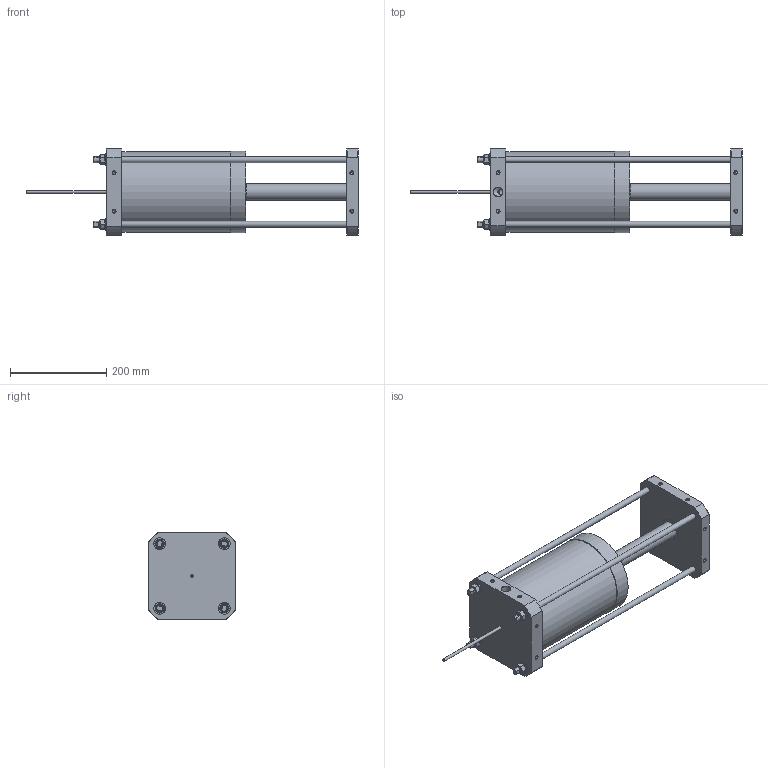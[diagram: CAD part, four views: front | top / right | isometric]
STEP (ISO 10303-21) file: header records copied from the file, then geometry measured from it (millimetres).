
FILE_DESCRIPTION(/* description */ (''),/* implementation_level */ '2;1');
FILE_NAME(/* name */ 'P13-2000.stp',/* time_stamp */ '2026-08-09T18:26:10+02:00',/* author */ ('janos'),/* organization */ (''),/* preprocessor_version */ 'ST-DEVELOPER v19.2',/* originating_system */ 'Autodesk Inventor 2024',/* authorisation */ '');
FILE_SCHEMA (('AUTOMOTIVE_DESIGN { 1 0 10303 214 3 1 1 }'));
Length unit declared in the file: millimetre
Products named in the file (1): 5.BG.160.160.1 Pneumatik Komponente_Vereinfachen_1
Bounding box: 690 x 180 x 180 mm (x, y, z)
Volume: 7875988.5 mm3; surface area: 412724.5 mm2
Topology: 1 solids, 1 shells, 207 faces, 509 edges, 321 vertices
Faces by surface type: plane 87, cone 70, cylinder 49, torus 1
Full cylindrical faces by diameter (mm): 6 x1, 6.647 x16, 12 x8, 13 x1, 14.376 x1, 18.631 x2, 24 x4, 34 x1, 45 x1, 168 x1, 170 x1
Entity records: 6275 total; most frequent: CARTESIAN_POINT 1259, DIRECTION 1013, ORIENTED_EDGE 986, EDGE_CURVE 493, AXIS2_PLACEMENT_3D 405, VERTEX_POINT 321, EDGE_LOOP 252, STYLED_ITEM 208
